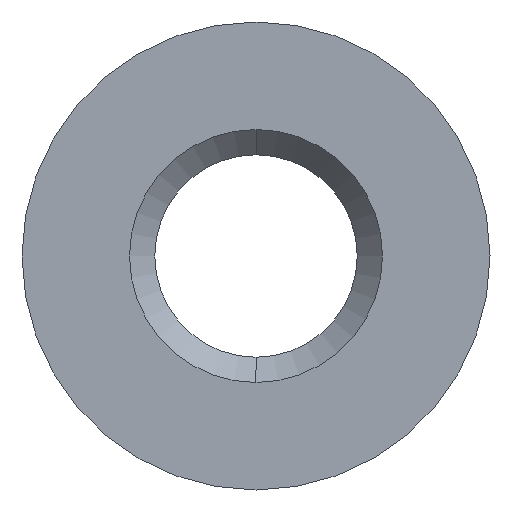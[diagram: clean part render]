
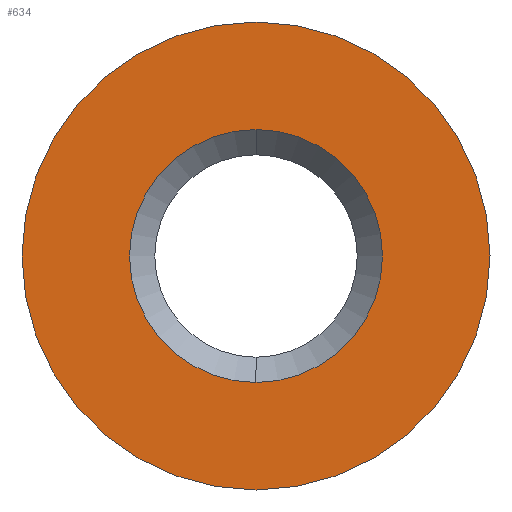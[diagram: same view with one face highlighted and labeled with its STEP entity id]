
A CAD part, left-side view. The second image highlights one B-rep face of the part: STEP entity #634.
In plain terms, the highlighted planar face has unit normal (-1, 0, 0).
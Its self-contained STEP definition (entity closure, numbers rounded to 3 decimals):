
#43 = CIRCLE ( 'NONE', #556, 1.85 ) ;
#78 = CIRCLE ( 'NONE', #289, 1. ) ;
#81 = CARTESIAN_POINT ( 'NONE',  ( -4., 0., 0. ) ) ;
#84 = VERTEX_POINT ( 'NONE', #444 ) ;
#105 = CARTESIAN_POINT ( 'NONE',  ( -4., 0., -1.85 ) ) ;
#118 = DIRECTION ( 'NONE',  ( 0., 0., -1. ) ) ;
#125 = PLANE ( 'NONE',  #126 ) ;
#126 = AXIS2_PLACEMENT_3D ( 'NONE', #690, #629, #118 ) ;
#129 = DIRECTION ( 'NONE',  ( 0., 0., -1. ) ) ;
#131 = VERTEX_POINT ( 'NONE', #105 ) ;
#147 = DIRECTION ( 'NONE',  ( 0., 0., -1. ) ) ;
#196 = DIRECTION ( 'NONE',  ( 1., 0., 0. ) ) ;
#198 = EDGE_LOOP ( 'NONE', ( #719, #415 ) ) ;
#204 = CARTESIAN_POINT ( 'NONE',  ( -4., 0., 0. ) ) ;
#207 = VERTEX_POINT ( 'NONE', #367 ) ;
#218 = EDGE_CURVE ( 'NONE', #207, #131, #505, .T. ) ;
#252 = DIRECTION ( 'NONE',  ( 1., 0., 0. ) ) ;
#281 = FACE_OUTER_BOUND ( 'NONE', #198, .T. ) ;
#289 = AXIS2_PLACEMENT_3D ( 'NONE', #658, #252, #147 ) ;
#305 = EDGE_CURVE ( 'NONE', #84, #588, #646, .T. ) ;
#335 = FACE_BOUND ( 'NONE', #674, .T. ) ;
#360 = EDGE_CURVE ( 'NONE', #588, #84, #78, .T. ) ;
#364 = AXIS2_PLACEMENT_3D ( 'NONE', #204, #196, #540 ) ;
#367 = CARTESIAN_POINT ( 'NONE',  ( -4., 0., 1.85 ) ) ;
#415 = ORIENTED_EDGE ( 'NONE', *, *, #218, .T. ) ;
#433 = CARTESIAN_POINT ( 'NONE',  ( -4., 0., 0. ) ) ;
#444 = CARTESIAN_POINT ( 'NONE',  ( -4., 0., 1. ) ) ;
#454 = CARTESIAN_POINT ( 'NONE',  ( -4., 0., -1. ) ) ;
#488 = DIRECTION ( 'NONE',  ( -1., 0., 0. ) ) ;
#505 = CIRCLE ( 'NONE', #696, 1.85 ) ;
#519 = ORIENTED_EDGE ( 'NONE', *, *, #360, .T. ) ;
#540 = DIRECTION ( 'NONE',  ( 0., 0., -1. ) ) ;
#556 = AXIS2_PLACEMENT_3D ( 'NONE', #81, #599, #129 ) ;
#588 = VERTEX_POINT ( 'NONE', #454 ) ;
#599 = DIRECTION ( 'NONE',  ( -1., 0., 0. ) ) ;
#629 = DIRECTION ( 'NONE',  ( 1., 0., 0. ) ) ;
#634 = ADVANCED_FACE ( 'NONE', ( #335, #281 ), #125, .F. ) ;
#646 = CIRCLE ( 'NONE', #364, 1. ) ;
#658 = CARTESIAN_POINT ( 'NONE',  ( -4., 0., 0. ) ) ;
#671 = ORIENTED_EDGE ( 'NONE', *, *, #305, .T. ) ;
#674 = EDGE_LOOP ( 'NONE', ( #671, #519 ) ) ;
#690 = CARTESIAN_POINT ( 'NONE',  ( -4., 1.85, 0. ) ) ;
#693 = EDGE_CURVE ( 'NONE', #131, #207, #43, .T. ) ;
#696 = AXIS2_PLACEMENT_3D ( 'NONE', #433, #488, #714 ) ;
#714 = DIRECTION ( 'NONE',  ( 0., 0., -1. ) ) ;
#719 = ORIENTED_EDGE ( 'NONE', *, *, #693, .T. ) ;
